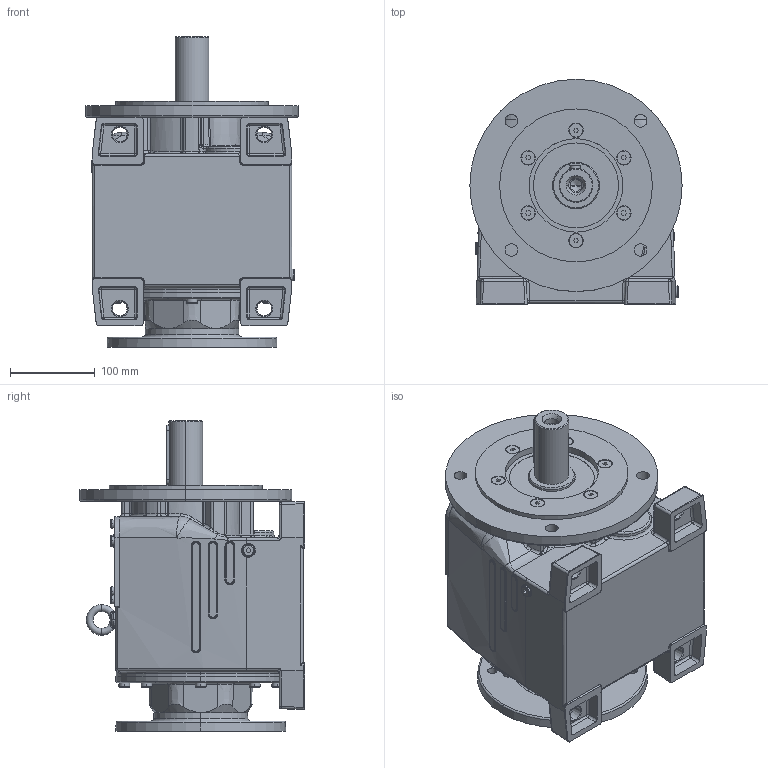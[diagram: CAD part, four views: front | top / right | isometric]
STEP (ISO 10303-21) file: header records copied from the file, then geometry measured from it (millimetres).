
FILE_DESCRIPTION (( 'STEP AP214' ), '1' );
FILE_NAME ('MTC52A-132-165+VP.STEP', '2006-05-05T05:34:54', ( '' ), ( '' ), 'SwSTEP 2.0', 'SolidWorks 2004146', '' );
FILE_SCHEMA (( 'AUTOMOTIVE_DESIGN' ));
Length unit declared in the file: millimetre
Products named in the file (6): D6912_Šroub DIN 6912 - M8x25; Výst_pøíruba MTC_A_MTC5_A; Pøíruba MRT120 kulatá _130-165-188; Skrin MTC5_A_MTC52A_AP132; D7991_Šroub DIN 7991 - M8 x 25; MTC52A-132-165+VP
Assembly tree (15 placements, depth 2):
  MTC52A-132-165+VP
    D6912_Šroub DIN 6912 - M8x25  x6
    D7991_Šroub DIN 7991 - M8 x 25  x6
    Pøíruba MRT120 kulatá _130-165-188
    Skrin MTC5_A_MTC52A_AP132
    Výst_pøíruba MTC_A_MTC5_A
Bounding box: 250 x 265 x 365.5 mm (x, y, z)
Volume: 10592425.3 mm3; surface area: 560320.3 mm2
Topology: 15 solids, 15 shells, 1492 faces, 3404 edges, 1990 vertices
Faces by surface type: plane 452, cylinder 399, cone 260, torus 226, bspline 126, sphere 29
Entity records: 112261 total; most frequent: CARTESIAN_POINT 80671, DIRECTION 5955, ORIENTED_EDGE 5638, EDGE_CURVE 2819, AXIS2_PLACEMENT_3D 2400, VERTEX_POINT 1712, EDGE_LOOP 1361, CIRCLE 1296
